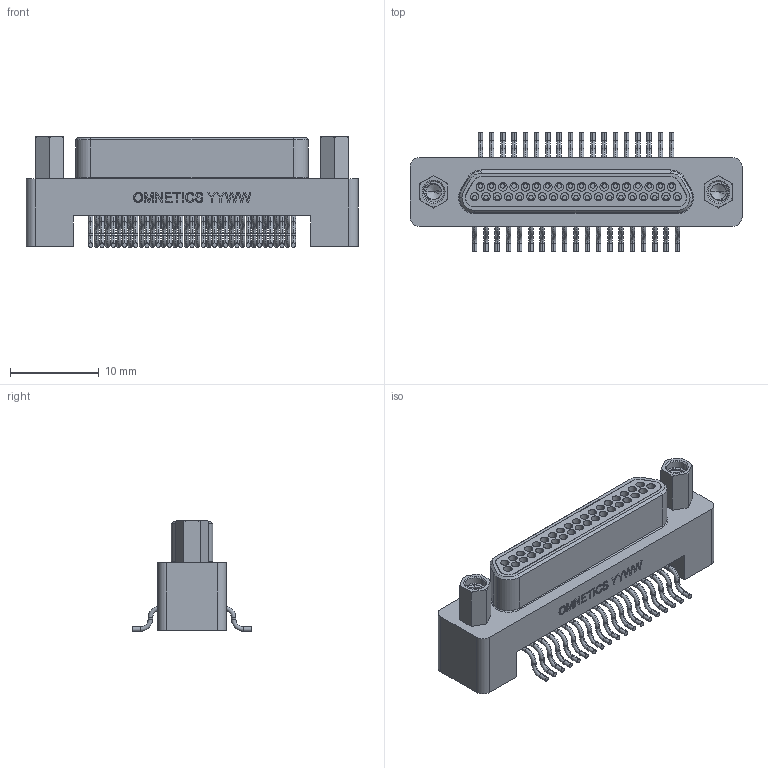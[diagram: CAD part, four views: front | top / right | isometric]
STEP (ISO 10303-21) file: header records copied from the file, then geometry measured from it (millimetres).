
FILE_DESCRIPTION (( 'STEP AP214' ), '1' );
FILE_NAME ('A98701-037 REV A.STEP', '2021-02-04T22:16:15', ( '' ), ( '' ), 'SwSTEP 2.0', 'SolidWorks 2019', '' );
FILE_SCHEMA (( 'AUTOMOTIVE_DESIGN' ));
Length unit declared in the file: inch
Products named in the file (1): A98701-037 REV A
Bounding box: 37.47 x 13.51 x 12.51 mm (x, y, z)
Volume: 1837.5 mm3; surface area: 3962.9 mm2
Topology: 1 solids, 4 shells, 1465 faces, 3277 edges, 1991 vertices
Faces by surface type: cylinder 683, plane 340, torus 227, cone 141, bspline 74
Entity records: 70116 total; most frequent: CARTESIAN_POINT 18854, DIRECTION 6966, ORIENTED_EDGE 6534, EDGE_CURVE 3267, AXIS2_PLACEMENT_3D 2849, VERTEX_POINT 1991, EDGE_LOOP 1650, LENGTH_MEASURE_WITH_UNIT 1468
